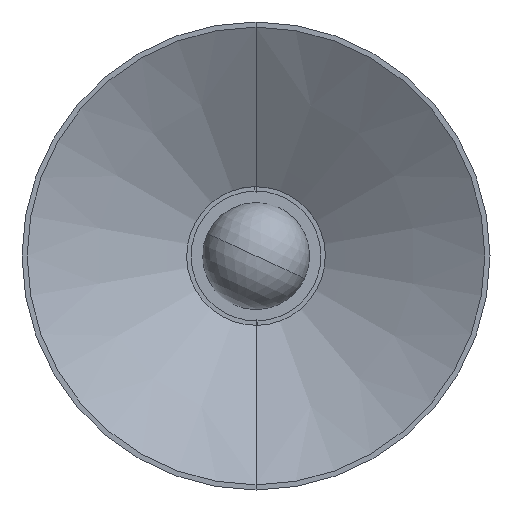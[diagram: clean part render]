
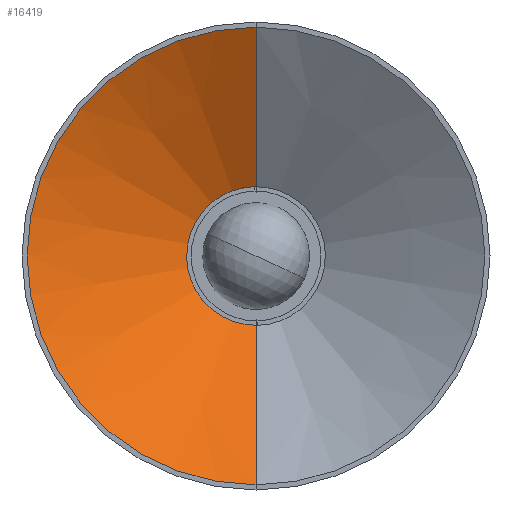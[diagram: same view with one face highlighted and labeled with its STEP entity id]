
A CAD part, front view. The second image highlights one B-rep face of the part: STEP entity #16419.
In plain terms, the highlighted conical face has half-angle 59.194 degrees and reference radius 11.337 mm.
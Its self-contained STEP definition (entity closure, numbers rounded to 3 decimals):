
#247 = CARTESIAN_POINT ( 'NONE',  ( 0., -72., 129.571 ) ) ;
#280 = DIRECTION ( 'NONE',  ( 0., 1., 0. ) ) ;
#395 = CARTESIAN_POINT ( 'NONE',  ( 0., -1.923, 12.047 ) ) ;
#2122 = ORIENTED_EDGE ( 'NONE', *, *, #3445, .T. ) ;
#2221 = CONICAL_SURFACE ( 'NONE', #17164, 11.337, 1.033 ) ;
#2484 = AXIS2_PLACEMENT_3D ( 'NONE', #6227, #10748, #15311 ) ;
#3445 = EDGE_CURVE ( 'NONE', #14239, #6094, #17343, .T. ) ;
#3991 = FACE_OUTER_BOUND ( 'NONE', #11672, .T. ) ;
#4091 = CARTESIAN_POINT ( 'NONE',  ( 0., -1.5, 0. ) ) ;
#4669 = DIRECTION ( 'NONE',  ( 0., 0., 1. ) ) ;
#5087 = ORIENTED_EDGE ( 'NONE', *, *, #14461, .F. ) ;
#6094 = VERTEX_POINT ( 'NONE', #247 ) ;
#6227 = CARTESIAN_POINT ( 'NONE',  ( 0., -1.923, 0. ) ) ;
#6230 = EDGE_CURVE ( 'NONE', #6580, #12199, #7819, .T. ) ;
#6580 = VERTEX_POINT ( 'NONE', #13749 ) ;
#7819 = LINE ( 'NONE', #15306, #11079 ) ;
#8765 = CIRCLE ( 'NONE', #2484, 12.047 ) ;
#8889 = ORIENTED_EDGE ( 'NONE', *, *, #6230, .F. ) ;
#8904 = EDGE_CURVE ( 'NONE', #6580, #14239, #8765, .T. ) ;
#8958 = ORIENTED_EDGE ( 'NONE', *, *, #8904, .T. ) ;
#10748 = DIRECTION ( 'NONE',  ( 0., 1., 0. ) ) ;
#11079 = VECTOR ( 'NONE', #15033, 1000. ) ;
#11354 = CARTESIAN_POINT ( 'NONE',  ( 0., -72., -129.571 ) ) ;
#11642 = DIRECTION ( 'NONE',  ( 0., -0.512, 0.859 ) ) ;
#11672 = EDGE_LOOP ( 'NONE', ( #8958, #2122, #5087, #8889 ) ) ;
#12199 = VERTEX_POINT ( 'NONE', #11354 ) ;
#12246 = CIRCLE ( 'NONE', #16129, 129.571 ) ;
#13749 = CARTESIAN_POINT ( 'NONE',  ( 0., -1.923, -12.047 ) ) ;
#13832 = DIRECTION ( 'NONE',  ( 0., -1., 0. ) ) ;
#14239 = VERTEX_POINT ( 'NONE', #395 ) ;
#14357 = CARTESIAN_POINT ( 'NONE',  ( 0., -1.5, 11.337 ) ) ;
#14461 = EDGE_CURVE ( 'NONE', #12199, #6094, #12246, .T. ) ;
#14610 = CARTESIAN_POINT ( 'NONE',  ( 0., -72., 0. ) ) ;
#15033 = DIRECTION ( 'NONE',  ( 0., -0.512, -0.859 ) ) ;
#15306 = CARTESIAN_POINT ( 'NONE',  ( 0., -1.5, -11.337 ) ) ;
#15311 = DIRECTION ( 'NONE',  ( 0., 0., -1. ) ) ;
#15843 = VECTOR ( 'NONE', #11642, 1000. ) ;
#16129 = AXIS2_PLACEMENT_3D ( 'NONE', #14610, #280, #4669 ) ;
#16419 = ADVANCED_FACE ( 'NONE', ( #3991 ), #2221, .F. ) ;
#16728 = DIRECTION ( 'NONE',  ( 0., 0., -1. ) ) ;
#17164 = AXIS2_PLACEMENT_3D ( 'NONE', #4091, #13832, #16728 ) ;
#17343 = LINE ( 'NONE', #14357, #15843 ) ;
